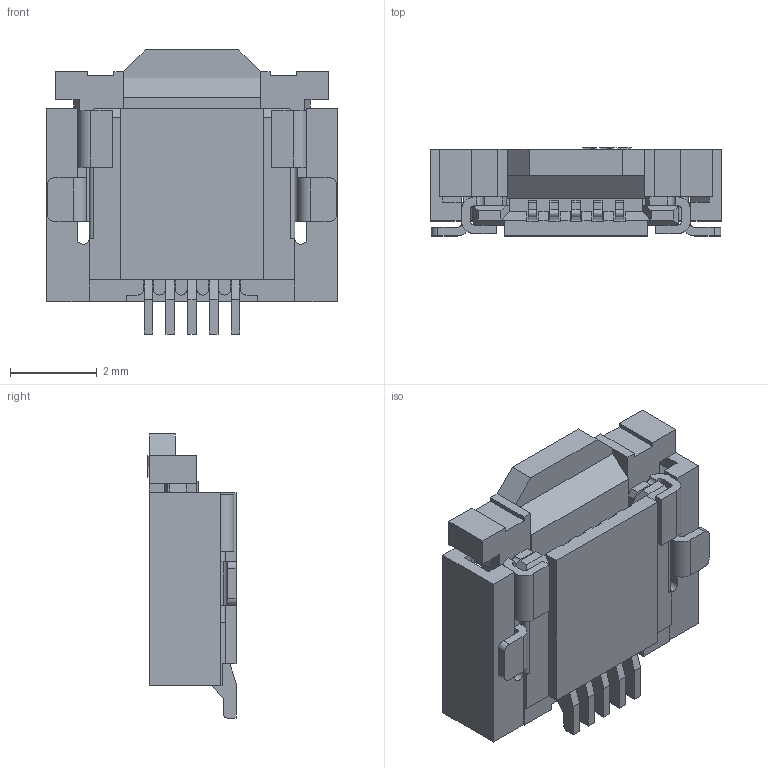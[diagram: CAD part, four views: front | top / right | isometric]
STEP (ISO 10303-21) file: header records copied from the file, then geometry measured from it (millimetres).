
FILE_DESCRIPTION((''),'2;1');
FILE_NAME('S-52561-005','2022-04-20T',('k41758'),(''),'PRO/ENGINEER BY PARAMETRIC TECHNOLOGY CORPORATION, 2009360','PRO/ENGINEER BY PARAMETRIC TECHNOLOGY CORPORATION, 2009360','');
FILE_SCHEMA(('CONFIG_CONTROL_DESIGN'));
Length unit declared in the file: millimetre
Products named in the file (1): S-52561-005
Bounding box: 6.7 x 2.03 x 6.55 mm (x, y, z)
Volume: 45.6 mm3; surface area: 238.3 mm2
Topology: 1 solids, 1 shells, 602 faces, 1838 edges, 1239 vertices
Faces by surface type: plane 462, cylinder 140
Entity records: 20465 total; most frequent: CARTESIAN_POINT 3684, ORIENTED_EDGE 3620, DIRECTION 3338, EDGE_CURVE 1810, VECTOR 1530, LINE 1530, VERTEX_POINT 1203, AXIS2_PLACEMENT_3D 904
